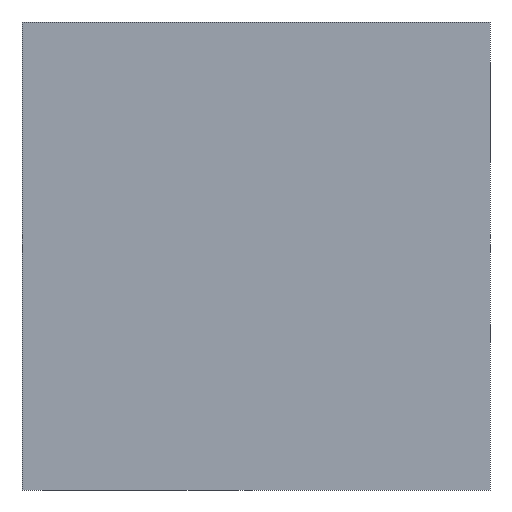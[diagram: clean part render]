
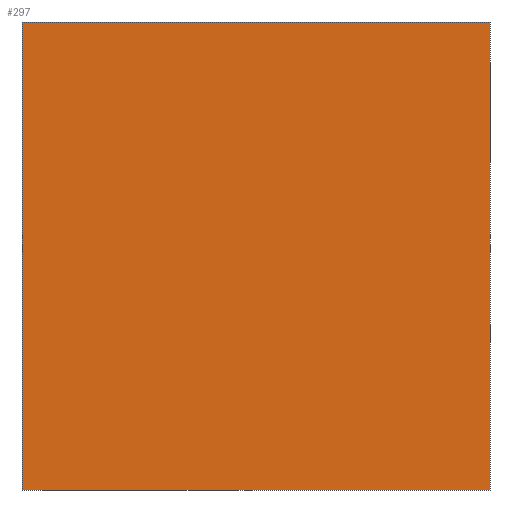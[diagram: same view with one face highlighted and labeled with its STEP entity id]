
A CAD part, front view. The second image highlights one B-rep face of the part: STEP entity #297.
In plain terms, the highlighted planar face has unit normal (0, -1, 0).
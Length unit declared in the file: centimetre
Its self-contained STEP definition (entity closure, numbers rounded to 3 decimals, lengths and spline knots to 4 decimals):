
#1 = DIRECTION ( 'NONE',  ( 1., 0., 0. ) ) ;
#21 = ORIENTED_EDGE ( 'NONE', *, *, #129, .T. ) ;
#49 = CARTESIAN_POINT ( 'NONE',  ( 1000., 0., 1000. ) ) ;
#82 = DIRECTION ( 'NONE',  ( 0., 0., -1. ) ) ;
#110 = AXIS2_PLACEMENT_3D ( 'NONE', #559, #822, #745 ) ;
#120 = EDGE_CURVE ( 'NONE', #639, #161, #749, .T. ) ;
#129 = EDGE_CURVE ( 'NONE', #878, #233, #420, .T. ) ;
#134 = CARTESIAN_POINT ( 'NONE',  ( 1000., 0., 0. ) ) ;
#138 = EDGE_CURVE ( 'NONE', #639, #878, #552, .T. ) ;
#154 = VECTOR ( 'NONE', #211, 100. ) ;
#161 = VERTEX_POINT ( 'NONE', #681 ) ;
#193 = VECTOR ( 'NONE', #317, 100. ) ;
#211 = DIRECTION ( 'NONE',  ( 1., 0., 0. ) ) ;
#215 = FACE_OUTER_BOUND ( 'NONE', #228, .T. ) ;
#219 = CARTESIAN_POINT ( 'NONE',  ( 0., 0., 1000. ) ) ;
#228 = EDGE_LOOP ( 'NONE', ( #21, #640, #423, #528 ) ) ;
#233 = VERTEX_POINT ( 'NONE', #134 ) ;
#281 = PLANE ( 'NONE',  #110 ) ;
#297 = ADVANCED_FACE ( 'NONE', ( #215 ), #281, .F. ) ;
#317 = DIRECTION ( 'NONE',  ( 0., 0., -1. ) ) ;
#342 = CARTESIAN_POINT ( 'NONE',  ( 0., 0., 0. ) ) ;
#348 = CARTESIAN_POINT ( 'NONE',  ( 0., 0., 1000. ) ) ;
#390 = EDGE_CURVE ( 'NONE', #161, #233, #657, .T. ) ;
#420 = LINE ( 'NONE', #342, #799 ) ;
#422 = VECTOR ( 'NONE', #82, 100. ) ;
#423 = ORIENTED_EDGE ( 'NONE', *, *, #120, .F. ) ;
#480 = CARTESIAN_POINT ( 'NONE',  ( 0., 0., 1000. ) ) ;
#528 = ORIENTED_EDGE ( 'NONE', *, *, #138, .T. ) ;
#552 = LINE ( 'NONE', #480, #422 ) ;
#559 = CARTESIAN_POINT ( 'NONE',  ( 0., 0., 1000. ) ) ;
#639 = VERTEX_POINT ( 'NONE', #348 ) ;
#640 = ORIENTED_EDGE ( 'NONE', *, *, #390, .F. ) ;
#657 = LINE ( 'NONE', #49, #193 ) ;
#681 = CARTESIAN_POINT ( 'NONE',  ( 1000., 0., 1000. ) ) ;
#745 = DIRECTION ( 'NONE',  ( 0., 0., 1. ) ) ;
#749 = LINE ( 'NONE', #219, #154 ) ;
#798 = CARTESIAN_POINT ( 'NONE',  ( 0., 0., 0. ) ) ;
#799 = VECTOR ( 'NONE', #1, 100. ) ;
#822 = DIRECTION ( 'NONE',  ( 0., 1., 0. ) ) ;
#878 = VERTEX_POINT ( 'NONE', #798 ) ;
